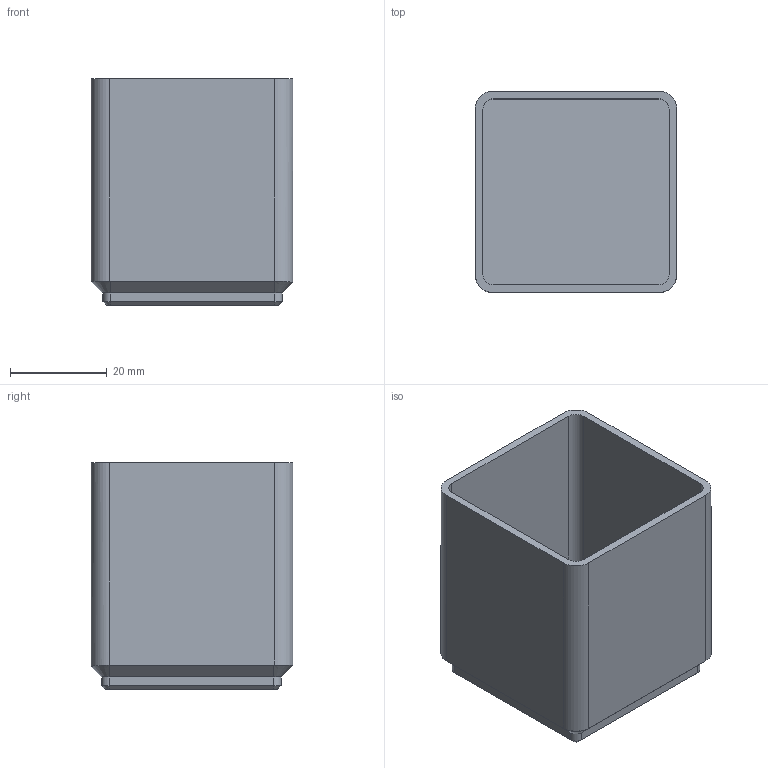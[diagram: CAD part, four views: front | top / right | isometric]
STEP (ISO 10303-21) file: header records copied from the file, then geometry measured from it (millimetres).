
FILE_DESCRIPTION(/* description */ (''),/* implementation_level */ '2;1');
FILE_NAME(/* name */ 'gridfinity-parametric-1x1x1-40mm.step',/* time_stamp */ '2026-01-11T18:39:52+05:30',/* author */ (''),/* organization */ (''),/* preprocessor_version */ 'ST-DEVELOPER v20.1',/* originating_system */ 'Autodesk Translation Framework v14.21.0.0',/* authorisation */ '');
FILE_SCHEMA (('AUTOMOTIVE_DESIGN { 1 0 10303 214 3 1 1 }'));
Length unit declared in the file: millimetre
Products named in the file (1): (Unsaved)
Bounding box: 41.75 x 41.75 x 47 mm (x, y, z)
Volume: 20560.6 mm3; surface area: 17096.4 mm2
Topology: 1 solids, 5 shells, 64 faces, 127 edges, 78 vertices
Faces by surface type: plane 36, cylinder 20, cone 8
Full cylindrical faces by diameter (mm): 3 x4, 6 x4
Entity records: 1675 total; most frequent: DIRECTION 296, CARTESIAN_POINT 296, ORIENTED_EDGE 254, EDGE_CURVE 127, AXIS2_PLACEMENT_3D 108, LINE 80, VECTOR 80, VERTEX_POINT 78
